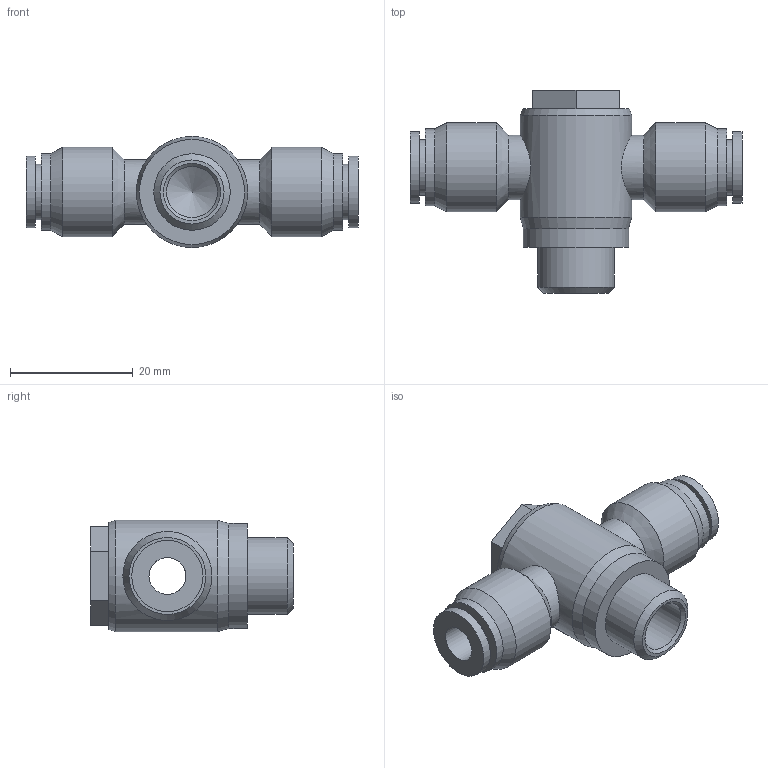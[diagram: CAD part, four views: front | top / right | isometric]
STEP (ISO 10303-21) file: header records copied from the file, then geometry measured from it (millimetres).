
FILE_DESCRIPTION(/* description */ (''),/* implementation_level */ '2;1');
FILE_NAME(/* name */ 'S:\UTecnico\ArchivioUT\Speciali Clienti\Speciali KONFIT\DISEGNI 3D\RP\RP 66\RP661406.stp',/* time_stamp */ '2013-08-01T09:54:55+02:00',/* author */ ('UT5'),/* organization */ (''),/* preprocessor_version */ 'ST-DEVELOPER v15.2',/* originating_system */ 'Autodesk Inventor 2014',/* authorisation */ '');
FILE_SCHEMA (('AUTOMOTIVE_DESIGN { 1 0 10303 214 3 1 1 }'));
Length unit declared in the file: millimetre
Products named in the file (1): RP661406
Bounding box: 54 x 33 x 18.1 mm (x, y, z)
Volume: 9205.7 mm3; surface area: 5454.5 mm2
Topology: 1 solids, 1 shells, 41 faces, 88 edges, 55 vertices
Faces by surface type: plane 16, cylinder 16, cone 9
Full cylindrical faces by diameter (mm): 6 x2, 8.3 x1, 9 x2, 10.5 x2, 11.6 x2, 12.426 x1, 12.5 x2, 14.5 x2, 17.1 x1, 18.1 x1
Entity records: 1085 total; most frequent: CARTESIAN_POINT 274, DIRECTION 164, ORIENTED_EDGE 106, EDGE_LOOP 78, AXIS2_PLACEMENT_3D 73, EDGE_CURVE 53, VERTEX_POINT 47, FACE_BOUND 43
